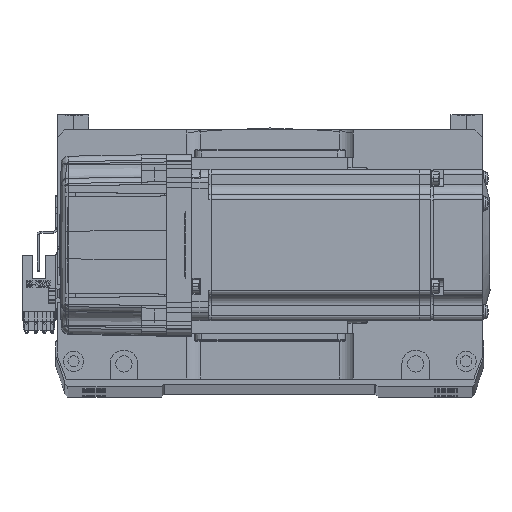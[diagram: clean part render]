
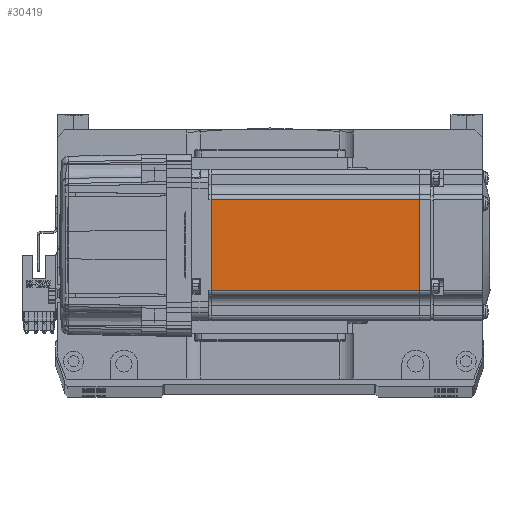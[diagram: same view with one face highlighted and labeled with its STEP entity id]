
A CAD part, top view. The second image highlights one B-rep face of the part: STEP entity #30419.
In plain terms, the highlighted planar face has unit normal (0, 0, 1) as drawn and (0, -1, 0) by its records, which use the part's own axes.
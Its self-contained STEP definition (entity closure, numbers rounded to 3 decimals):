
#3563 = PLANE ( 'NONE',  #17834 ) ;
#3807 = CARTESIAN_POINT ( 'NONE',  ( -6.5, -30., 18. ) ) ;
#4149 = LINE ( 'NONE', #19228, #17403 ) ;
#4423 = VERTEX_POINT ( 'NONE', #55334 ) ;
#6516 = ORIENTED_EDGE ( 'NONE', *, *, #63030, .T. ) ;
#7097 = FACE_OUTER_BOUND ( 'NONE', #45501, .T. ) ;
#8824 = DIRECTION ( 'NONE',  ( 0., 0., 1. ) ) ;
#10106 = VECTOR ( 'NONE', #67583, 1000. ) ;
#13983 = VECTOR ( 'NONE', #19265, 1000. ) ;
#14428 = ORIENTED_EDGE ( 'NONE', *, *, #61427, .T. ) ;
#14791 = LINE ( 'NONE', #3807, #13983 ) ;
#15670 = CARTESIAN_POINT ( 'NONE',  ( -90.45, -30., -18. ) ) ;
#17169 = VERTEX_POINT ( 'NONE', #56150 ) ;
#17403 = VECTOR ( 'NONE', #8824, 1000. ) ;
#17834 = AXIS2_PLACEMENT_3D ( 'NONE', #40989, #51668, #19923 ) ;
#19228 = CARTESIAN_POINT ( 'NONE',  ( -7.75, -30., -25. ) ) ;
#19265 = DIRECTION ( 'NONE',  ( -1., 0., 0. ) ) ;
#19923 = DIRECTION ( 'NONE',  ( 0., 0., -1. ) ) ;
#30419 = ADVANCED_FACE ( 'NONE', ( #7097 ), #3563, .T. ) ;
#34745 = DIRECTION ( 'NONE',  ( 0., 0., -1. ) ) ;
#35217 = CARTESIAN_POINT ( 'NONE',  ( -6.5, -30., -18. ) ) ;
#35822 = EDGE_CURVE ( 'NONE', #60737, #4423, #38254, .T. ) ;
#38254 = LINE ( 'NONE', #35217, #10106 ) ;
#40989 = CARTESIAN_POINT ( 'NONE',  ( -6.5, -30., -25. ) ) ;
#45501 = EDGE_LOOP ( 'NONE', ( #14428, #60906, #6516, #64817 ) ) ;
#50736 = CARTESIAN_POINT ( 'NONE',  ( -90.45, -30., -25. ) ) ;
#51668 = DIRECTION ( 'NONE',  ( 0., -1., 0. ) ) ;
#53979 = VERTEX_POINT ( 'NONE', #59424 ) ;
#55334 = CARTESIAN_POINT ( 'NONE',  ( -7.75, -30., -18. ) ) ;
#56150 = CARTESIAN_POINT ( 'NONE',  ( -7.75, -30., 18. ) ) ;
#58576 = EDGE_CURVE ( 'NONE', #17169, #53979, #14791, .T. ) ;
#59424 = CARTESIAN_POINT ( 'NONE',  ( -90.45, -30., 18. ) ) ;
#60737 = VERTEX_POINT ( 'NONE', #15670 ) ;
#60906 = ORIENTED_EDGE ( 'NONE', *, *, #58576, .T. ) ;
#61427 = EDGE_CURVE ( 'NONE', #4423, #17169, #4149, .T. ) ;
#63030 = EDGE_CURVE ( 'NONE', #53979, #60737, #68439, .T. ) ;
#64817 = ORIENTED_EDGE ( 'NONE', *, *, #35822, .T. ) ;
#66743 = VECTOR ( 'NONE', #34745, 1000. ) ;
#67583 = DIRECTION ( 'NONE',  ( 1., 0., 0. ) ) ;
#68439 = LINE ( 'NONE', #50736, #66743 ) ;
